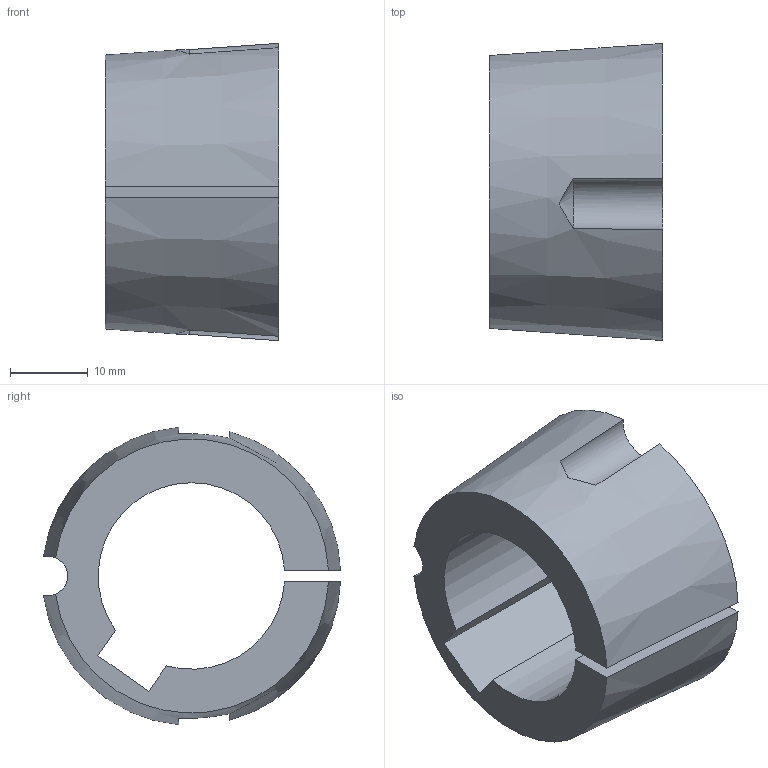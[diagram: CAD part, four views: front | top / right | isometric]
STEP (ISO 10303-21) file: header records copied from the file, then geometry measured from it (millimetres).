
FILE_DESCRIPTION( ( 'STEP AP203' ), '1' );
FILE_NAME( 'D:/export/antriebselemente/spannbuchsen_und_spannsaetze/taper-spannbuchsen_1008_bis_5050/taper-spannbuchsen_62250224Isometric_31.stp', '2018-12-11T11:10:59', ( '' ), ( '' ), ' ', 'PARTsolutions', ' ' );
FILE_SCHEMA( ( 'CONFIG_CONTROL_DESIGN' ) );
Length unit declared in the file: millimetre
Products named in the file (1): _taper-spannbuchsen_62250224
Bounding box: 22.3 x 38.22 x 38.26 mm (x, y, z)
Volume: 12197.8 mm3; surface area: 5921.1 mm2
Topology: 1 solids, 1 shells, 16 faces, 42 edges, 28 vertices
Faces by surface type: plane 7, cylinder 5, cone 4
Entity records: 602 total; most frequent: CARTESIAN_POINT 163, ORIENTED_EDGE 84, DIRECTION 82, EDGE_CURVE 42, AXIS2_PLACEMENT_3D 33, VERTEX_POINT 28, ADVANCED_FACE 16, FACE_OUTER_BOUND 16
